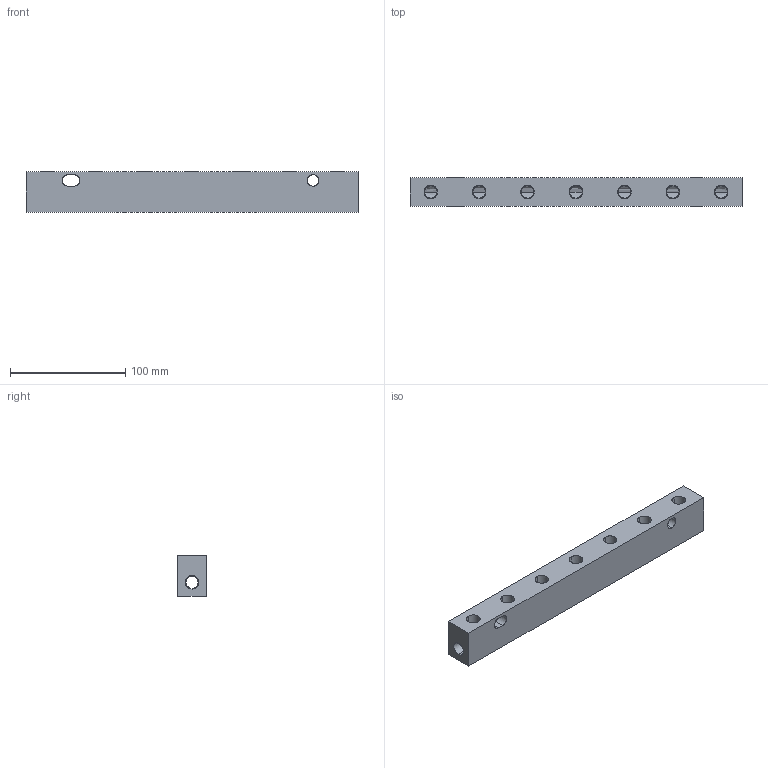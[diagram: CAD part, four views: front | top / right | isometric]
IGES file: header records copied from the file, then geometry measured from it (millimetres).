
Global section: file name: E:\UnigraphicsGraphicData\MISUMI_PRESS-PARTS\IGES\3d_dmfda_03685_r00.igs; native system: NX V5.0; preprocessor: UGS NX IGES V5.0; author: MISUMI; date: 20110105.160526; units: millimetre
Bounding box: 288 x 25 x 35 mm (x, y, z)
Surface area: 50672.4 mm2 (no closed solid volume)
Topology: 0 solids, 0 shells, 46 faces, 432 edges, 432 vertices
Faces by surface type: bspline 46
